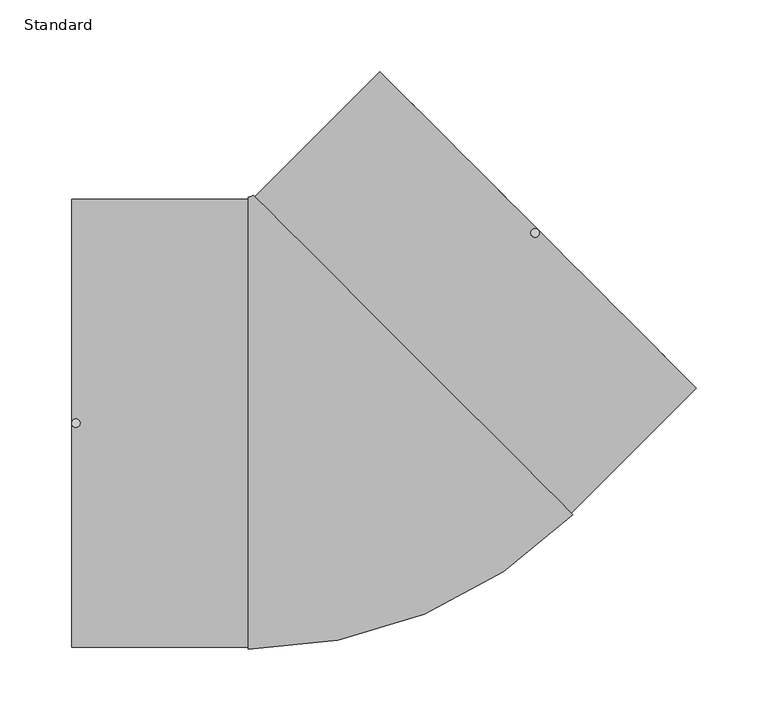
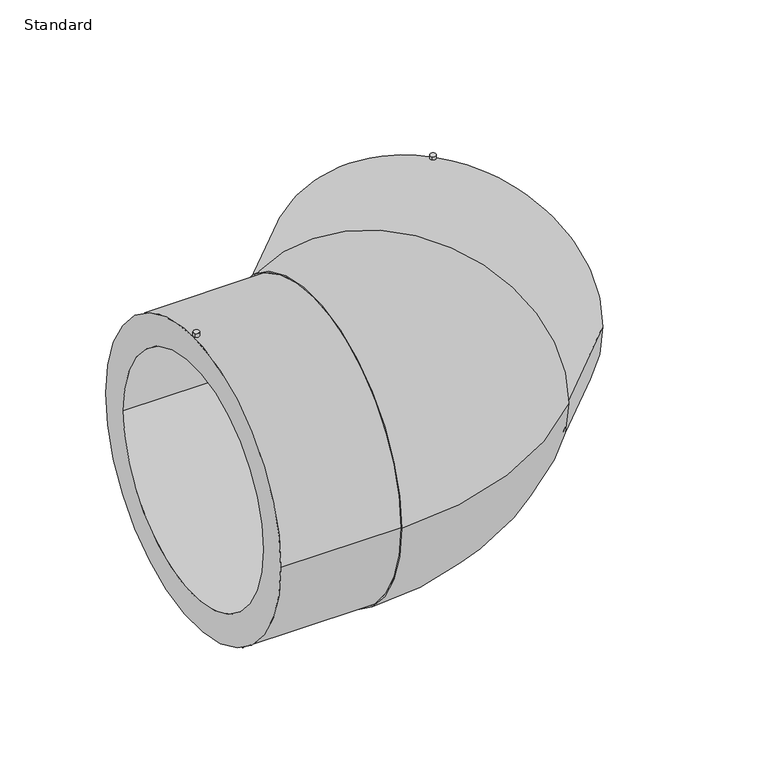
"""IFC4 building model written with IfcOpenShell, lengths in millimetres: pipe fitting geometry, EGB_VASEN_ PPR_Codo electrosoldable 90 WXRD200_Codo electrosoldable 45 WXRD220 : Standard."""

from ifc_helpers import new_model, si_unit, point, frame, frame_2d, origin, place, context, project, spatial, polyline, circle_curve, ellipse_curve, trimmed, segment, composite_curve, outline, extrude, source, transform, mapped, element, save
from ifc_brep_helpers import plane_surface, cylinder_surface, revolved_surface, advanced_brep


def standard_b40e3e19(model_context):
    return source(origin(), model_context, "Body", "SolidModel", [
        advanced_brep(
        [(-191.0, -156.5, 0.0), (-191.0, 156.5, 0.0), (-191.0, -125.0, 0.0), (-191.0, 125.0, 0.0), (-67.4457429, -156.5, 0.0), (-67.4457429, 156.5, 0.0), (-67.4457429, -125.0, 0.0), (-67.4457429, 125.0, 0.0), (-67.4457429, -158.0, 0.0), (-67.4457429, 158.0, 0.0), (159.4142136, -64.0315293, 0.0), (-64.0315293, 159.4142136, 0.0), (158.3535534, -62.9708691, 0.0), (-62.9708691, 158.3535534, 0.0), (136.0796898, -40.6970055, 0.0), (-40.6970055, 136.0796898, 0.0), (245.7196065, 24.395184, 0.0), (24.395184, 245.7196065, 0.0), (223.4457429, 46.6690476, 0.0), (46.6690476, 223.4457429, 0.0)],
        [
            (0, 1, circle_curve(frame((-191.0, 0.0, 0.0), z_axis=(-1.0, 0.0, 0.0), x_axis=(0.0, 1.0, 0.0)), 156.5)),
            (1, 0, circle_curve(frame((-191.0, 0.0, 0.0), z_axis=(-1.0, 0.0, 0.0), x_axis=(0.0, 1.0, 0.0)), 156.5)),
            (2, 3, circle_curve(frame((-191.0, 0.0, 0.0), z_axis=(1.0, 0.0, 0.0), x_axis=(0.0, 1.0, 0.0)), 125.0)),
            (3, 2, circle_curve(frame((-191.0, 0.0, 0.0), z_axis=(1.0, 0.0, 0.0), x_axis=(0.0, 1.0, 0.0)), 125.0)),
            (0, 4),
            (4, 5, circle_curve(frame((-67.4457429, 0.0, 0.0), z_axis=(-1.0, 0.0, 0.0), x_axis=(0.0, 1.0, 0.0)), 156.5)),
            (5, 1),
            (5, 4, circle_curve(frame((-67.4457429, 0.0, 0.0), z_axis=(-1.0, 0.0, 0.0), x_axis=(0.0, 1.0, 0.0)), 156.5)),
            (2, 6),
            (6, 7, circle_curve(frame((-67.4457429, 0.0, 0.0), z_axis=(1.0, 0.0, 0.0), x_axis=(0.0, 1.0, 0.0)), 125.0)),
            (7, 3),
            (7, 6, circle_curve(frame((-67.4457429, 0.0, 0.0), z_axis=(1.0, 0.0, 0.0), x_axis=(0.0, 1.0, 0.0)), 125.0)),
            (8, 9, circle_curve(frame((-67.4457429, 0.0, 0.0), z_axis=(-1.0, 0.0, 0.0), x_axis=(0.0, 1.0, 0.0)), 158.0)),
            (9, 8, circle_curve(frame((-67.4457429, 0.0, 0.0), z_axis=(-1.0, 0.0, 0.0), x_axis=(0.0, 1.0, 0.0)), 158.0)),
            (10, 11, circle_curve(frame((47.6913421, 47.6913421, 0.0), z_axis=(0.7071067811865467, 0.7071067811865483, 0.0), x_axis=(-0.7071067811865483, 0.7071067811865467, 0.0)), 158.0)),
            (11, 10, circle_curve(frame((47.6913421, 47.6913421, 0.0), z_axis=(0.7071067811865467, 0.7071067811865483, 0.0), x_axis=(-0.7071067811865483, 0.7071067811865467, 0.0)), 158.0)),
            (12, 13, circle_curve(frame((47.6913421, 47.6913421, 0.0), z_axis=(-0.7071067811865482, -0.7071067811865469, 0.0), x_axis=(-0.7071067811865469, 0.7071067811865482, 0.0)), 156.5)),
            (13, 12, circle_curve(frame((47.6913421, 47.6913421, 0.0), z_axis=(-0.7071067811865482, -0.7071067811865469, 0.0), x_axis=(-0.7071067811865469, 0.7071067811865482, 0.0)), 156.5)),
            (14, 15, circle_curve(frame((47.6913421, 47.6913421, 0.0), z_axis=(0.7071067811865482, 0.7071067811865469, 0.0), x_axis=(-0.7071067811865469, 0.7071067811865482, 0.0)), 125.0)),
            (15, 14, circle_curve(frame((47.6913421, 47.6913421, 0.0), z_axis=(0.7071067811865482, 0.7071067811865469, 0.0), x_axis=(-0.7071067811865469, 0.7071067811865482, 0.0)), 125.0)),
            (8, 10, circle_curve(frame((-67.4457429, 162.8284271, 0.0), z_axis=(0.0, 0.0, 1.0), x_axis=(0.0, -1.0, 0.0)), 320.8284271)),
            (11, 9, circle_curve(frame((-67.4457429, 162.8284271, 0.0), z_axis=(0.0, 0.0, -1.0), x_axis=(0.0, -1.0, 0.0)), 4.8284271)),
            (16, 17, circle_curve(frame((135.0573952, 135.0573952, 0.0), z_axis=(0.7071067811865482, 0.7071067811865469, 0.0), x_axis=(-0.7071067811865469, 0.7071067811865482, 0.0)), 156.5)),
            (17, 16, circle_curve(frame((135.0573952, 135.0573952, 0.0), z_axis=(0.7071067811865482, 0.7071067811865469, 0.0), x_axis=(-0.7071067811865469, 0.7071067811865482, 0.0)), 156.5)),
            (18, 19, circle_curve(frame((135.0573952, 135.0573952, 0.0), z_axis=(-0.7071067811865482, -0.7071067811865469, 0.0), x_axis=(-0.7071067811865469, 0.7071067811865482, 0.0)), 125.0)),
            (19, 18, circle_curve(frame((135.0573952, 135.0573952, 0.0), z_axis=(-0.7071067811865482, -0.7071067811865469, 0.0), x_axis=(-0.7071067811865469, 0.7071067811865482, 0.0)), 125.0)),
            (17, 13),
            (12, 16),
            (19, 15),
            (14, 18),
        ],
        [
            plane_surface(frame((-191.0, 0.0, 0.0), z_axis=(-1.0, 0.0, 0.0), x_axis=(0.0, 0.0, 1.0))),
            cylinder_surface(frame((-191.0, 0.0, 0.0), z_axis=(-1.0, 0.0, 0.0), x_axis=(0.0, 1.0, 0.0)), 156.5),
            revolved_surface(polyline([(-67.4457429, 125.0, 0.0), (-191.0, 125.0, 0.0)]), (-191.0, 0.0, 0.0), (1.0, 0.0, 0.0)),
            plane_surface(frame((-67.4457429, 0.0, 0.0), z_axis=(-1.0, 0.0, 0.0), x_axis=(0.0, 0.0, 1.0))),
            plane_surface(frame((47.6913421, 47.6913421, 0.0), z_axis=(0.7071067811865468, 0.7071067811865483, 0.0), x_axis=(0.0, 0.0, 1.0))),
            revolved_surface(trimmed(ellipse_curve(frame((-67.4457429, 0.0, 0.0), z_axis=(-1.0, 0.0, 0.0), x_axis=(0.0, 1.0, 0.0)), 158.0, 158.0), [point((-67.4457429, -158.0, 0.0))], [point((-67.4457429, 158.0, 0.0))], True, "CARTESIAN"), (-67.4457429, 162.8284271, 0.0), (0.0, 0.0, 1.0)),
            revolved_surface(trimmed(ellipse_curve(frame((-67.4457429, 0.0, 0.0), z_axis=(-1.0, 0.0, 0.0), x_axis=(0.0, 1.0, 0.0)), 158.0, 158.0), [point((-67.4457429, 158.0, 0.0))], [point((-67.4457429, -158.0, 0.0))], True, "CARTESIAN"), (-67.4457429, 162.8284271, 0.0), (0.0, 0.0, 1.0)),
            plane_surface(frame((135.0573952, 135.0573952, 0.0), z_axis=(0.7071067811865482, 0.7071067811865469, 0.0), x_axis=(0.0, 0.0, 1.0))),
            cylinder_surface(frame((47.6913421, 47.6913421, 0.0), z_axis=(-0.7071067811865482, -0.7071067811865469, 0.0), x_axis=(-0.7071067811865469, 0.7071067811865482, 0.0)), 156.5),
            revolved_surface(polyline([(46.66904760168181, 223.4457428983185, 0.0), (-40.69700554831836, 136.07968974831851, 0.0)]), (47.6913421, 47.6913421, 0.0), (0.7071067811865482, 0.7071067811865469, 0.0)),
        ],
        [
            (0, [[1, 2], [3, 4]]),
            (1, [[-1, 5, 6, 7]]),
            (1, [[-2, -7, 8, -5]]),
            (2, [[-3, 9, 10, 11]]),
            (2, [[-4, -11, 12, -9]]),
            (3, [[-10, -12]]),
            (3, [[13, 14], [-6, -8]]),
            (4, [[15, 16], [17, 18]]),
            (4, [[19, 20]]),
            (5, [[-13, 21, -16, 22]]),
            (6, [[-14, -22, -15, -21]]),
            (7, [[23, 24], [25, 26]]),
            (8, [[-24, 27, -17, 28]]),
            (8, [[-23, -28, -18, -27]]),
            (9, [[-26, 29, -19, 30]]),
            (9, [[-25, -30, -20, -29]]),
        ],
    ),
        extrude(outline(composite_curve([segment(trimmed(circle_curve(frame_2d((132.9360749, 132.9360749)), 3.0), [point((130.8147545, 130.8147545))], [point((135.0573952, 135.0573952))], False, "CARTESIAN"), True, "CONTINUOUS"), segment(trimmed(circle_curve(frame_2d((132.9360749, 132.9360749)), 3.0), [point((135.0573952, 135.0573952))], [point((130.8147545, 130.8147545))], False, "CARTESIAN"), True, "CONTINUOUS")], self_intersect=False)), frame((0.0, 0.0, 126.0), z_axis=(0.0, 0.0, 1.0), x_axis=(1.0, 0.0, 0.0)), (0.0, 0.0, 1.0), 35.0),
        extrude(outline(composite_curve([segment(trimmed(circle_curve(frame_2d((-188.0, 0.0)), 3.0), [point((-190.1213203, -2.1213203))], [point((-185.8786797, 2.1213203))], False, "CARTESIAN"), True, "CONTINUOUS"), segment(trimmed(circle_curve(frame_2d((-188.0, 0.0)), 3.0), [point((-185.8786797, 2.1213203))], [point((-190.1213203, -2.1213203))], False, "CARTESIAN"), True, "CONTINUOUS")], self_intersect=False)), frame((0.0, 0.0, 126.0), z_axis=(0.0, 0.0, 1.0), x_axis=(1.0, 0.0, 0.0)), (0.0, 0.0, 1.0), 35.0),
    ])


if __name__ == "__main__":
    model = new_model("IFC4")
    model_context = context("Model", 3, world=origin())
    ifc_project = project(units=[si_unit("LENGTHUNIT", "METRE", prefix="MILLI")], contexts=[model_context])
    site = spatial("IfcSite", under=ifc_project)
    building = spatial("IfcBuilding", under=site)
    placement = place(None, origin())
    standard_shape = standard_b40e3e19(model_context)
    element("IfcPipeFitting", 1, ObjectType="EGB_VASEN_ PPR_Codo electrosoldable 90 WXRD200_Codo electrosoldable 45 WXRD220 : Standard", at=placement, inside=building, context=model_context, shape_type="MappedRepresentation", body=[
        mapped(standard_shape, transform((0.0, 0.0, 0.0), x_axis=(1.0, 0.0, 0.0), y_axis=(0.0, 1.0, 0.0), z_axis=(0.0, 0.0, 1.0))),
    ])
    save(model, "model.ifc")
